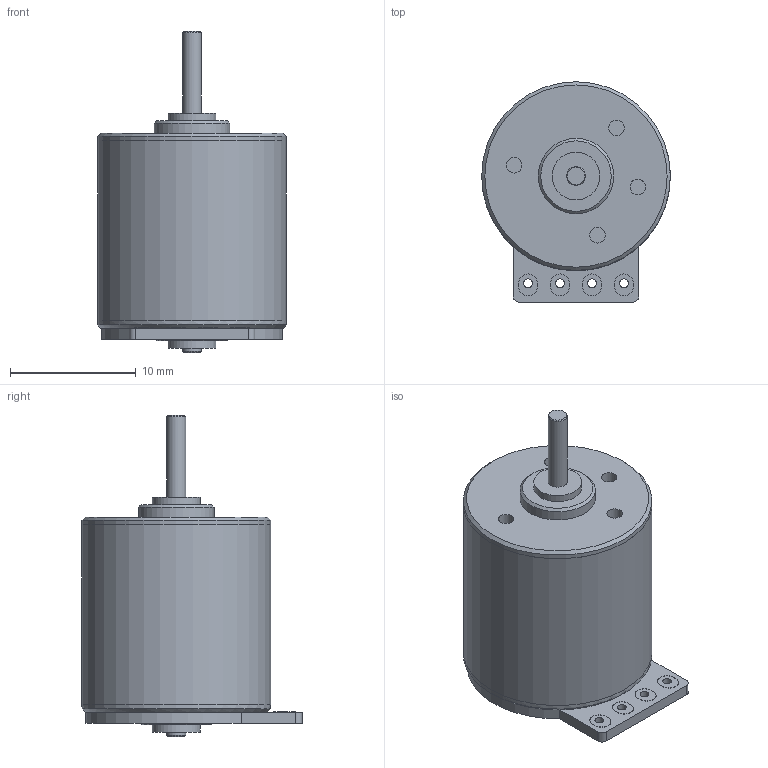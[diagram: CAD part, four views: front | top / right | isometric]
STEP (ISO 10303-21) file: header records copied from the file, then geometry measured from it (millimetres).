
FILE_DESCRIPTION(/* description */ (''),/* implementation_level */ '2;1');
FILE_NAME(/* name */ 'AM1524_05.stp',/* time_stamp */ '2018-11-28T08:01:19+01:00',/* author */ ('DR. FRITZ FAULHABER GmbH & Co. KG'),/* organization */ ('DR. FRITZ FAULHABER GmbH & Co. KG'),/* preprocessor_version */ 'ST-DEVELOPER v16.7',/* originating_system */ 'SIEMENS PLM Software NX 12.0',/* authorisation */ '');
FILE_SCHEMA (('AUTOMOTIVE_DESIGN { 1 0 10303 214 3 1 1 1 }'));
Length unit declared in the file: millimetre
Products named in the file (1): Alle_Motoren
Bounding box: 15 x 17.5 x 25.55 mm (x, y, z)
Volume: 2959.6 mm3; surface area: 1312.2 mm2
Topology: 1 solids, 1 shells, 183 faces, 416 edges, 275 vertices
Faces by surface type: plane 114, cylinder 43, extrusion 20, cone 6
Full cylindrical faces by diameter (mm): 0.7 x4, 1.25 x4, 1.5 x2, 2 x4, 3.8 x2, 6 x2, 6.2 x1, 14.999 x2, 15 x3
Entity records: 5781 total; most frequent: CARTESIAN_POINT 1561, ORIENTED_EDGE 768, DIRECTION 683, EDGE_CURVE 384, VERTEX_POINT 273, EDGE_LOOP 261, AXIS2_PLACEMENT_3D 257, ADVANCED_FACE 183
